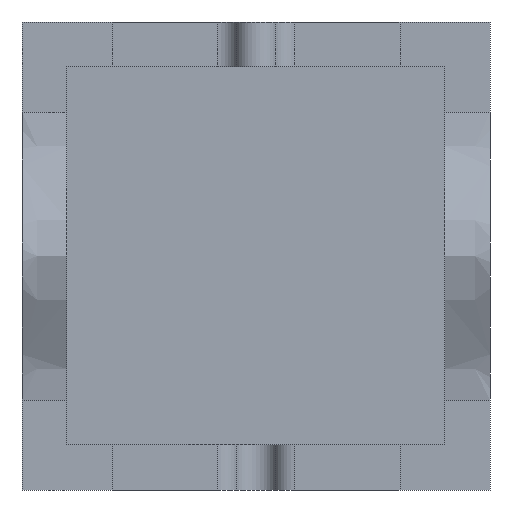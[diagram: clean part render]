
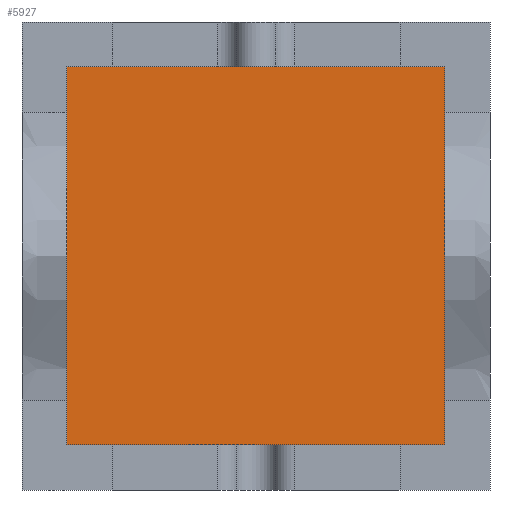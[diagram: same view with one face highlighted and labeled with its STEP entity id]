
A CAD part, front view. The second image highlights one B-rep face of the part: STEP entity #5927.
In plain terms, the highlighted planar face has unit normal (0, -1, 0).
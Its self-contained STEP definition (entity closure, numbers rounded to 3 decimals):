
#5801=CARTESIAN_POINT('Vertex',(-20.,-30.,-20.)) ;
#5806=CARTESIAN_POINT('Line Origine',(-20.,-30.,64.)) ;
#5810=CARTESIAN_POINT('Vertex',(-20.,-30.,148.)) ;
#5837=CARTESIAN_POINT('Line Origine',(64.,-30.,148.)) ;
#5841=CARTESIAN_POINT('Vertex',(148.,-30.,148.)) ;
#5868=CARTESIAN_POINT('Line Origine',(148.,-30.,64.)) ;
#5872=CARTESIAN_POINT('Vertex',(148.,-30.,-20.)) ;
#5899=CARTESIAN_POINT('Line Origine',(64.,-30.,-20.)) ;
#5916=CARTESIAN_POINT('Axis2P3D Location',(0.,-30.,0.)) ;
#5807=DIRECTION('Vector Direction',(0.,0.,-1.)) ;
#5838=DIRECTION('Vector Direction',(1.,0.,0.)) ;
#5869=DIRECTION('Vector Direction',(0.,0.,1.)) ;
#5900=DIRECTION('Vector Direction',(-1.,0.,0.)) ;
#5917=DIRECTION('Axis2P3D Direction',(0.,1.,0.)) ;
#5918=DIRECTION('Axis2P3D XDirection',(-1.,0.,0.)) ;
#5919=AXIS2_PLACEMENT_3D('Plane Axis2P3D',#5916,#5917,#5918) ;
#5922=ORIENTED_EDGE('',*,*,#5903,.F.) ;
#5923=ORIENTED_EDGE('',*,*,#5874,.F.) ;
#5924=ORIENTED_EDGE('',*,*,#5843,.F.) ;
#5925=ORIENTED_EDGE('',*,*,#5812,.F.) ;
#5808=VECTOR('Line Direction',#5807,1.) ;
#5839=VECTOR('Line Direction',#5838,1.) ;
#5870=VECTOR('Line Direction',#5869,1.) ;
#5901=VECTOR('Line Direction',#5900,1.) ;
#5927=ADVANCED_FACE('Cavity-molde',(#5926),#5920,.F.) ;
#5812=EDGE_CURVE('',#5802,#5811,#5809,.F.) ;
#5843=EDGE_CURVE('',#5811,#5842,#5840,.T.) ;
#5874=EDGE_CURVE('',#5842,#5873,#5871,.F.) ;
#5903=EDGE_CURVE('',#5873,#5802,#5902,.T.) ;
#5921=EDGE_LOOP('',(#5922,#5923,#5924,#5925)) ;
#5926=FACE_OUTER_BOUND('',#5921,.T.) ;
#5809=LINE('Line',#5806,#5808) ;
#5840=LINE('Line',#5837,#5839) ;
#5871=LINE('Line',#5868,#5870) ;
#5902=LINE('Line',#5899,#5901) ;
#5920=PLANE('',#5919) ;
#5802=VERTEX_POINT('',#5801) ;
#5811=VERTEX_POINT('',#5810) ;
#5842=VERTEX_POINT('',#5841) ;
#5873=VERTEX_POINT('',#5872) ;
